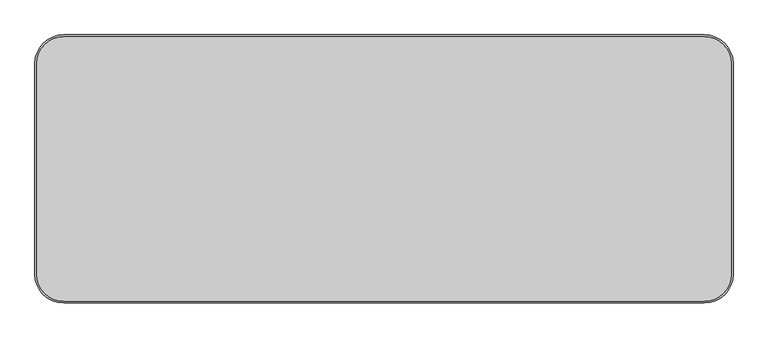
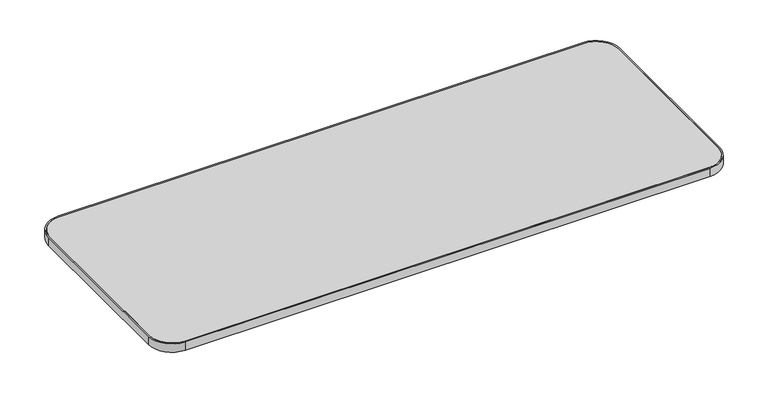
"""IFC4 building model written with IfcOpenShell, lengths in millimetres: furniture geometry, Steelcase - Answer Solution - Universal Table - Straight - 3mm Edge : 30D x 78W."""

from ifc_helpers import new_model, si_unit, point, frame, frame_2d, origin, place, context, project, spatial, polyline, circle_curve, trimmed, segment, composite_curve, outline, extrude, source, transform, mapped, element, save


def furniture_18c308d8(model_context):
    return source(origin(), model_context, "Body", "SweptSolid", [
        extrude(outline(composite_curve([segment(polyline([(5.08, -680.72), (5.08, -81.28)]), True, "CONTINUOUS"), segment(trimmed(circle_curve(frame_2d((81.28, -81.28)), 76.2), [point((5.08, -81.28))], [point((81.28, -5.08))], False, "CARTESIAN"), True, "CONTINUOUS"), segment(polyline([(81.28, -5.08), (1899.92, -5.08)]), True, "CONTINUOUS"), segment(trimmed(circle_curve(frame_2d((1899.92, -81.28)), 76.2), [point((1899.92, -5.08))], [point((1976.12, -81.28))], False, "CARTESIAN"), True, "CONTINUOUS"), segment(polyline([(1976.12, -81.28), (1976.12, -680.72)]), True, "CONTINUOUS"), segment(trimmed(circle_curve(frame_2d((1899.92, -680.72)), 76.2), [point((1976.12, -680.72))], [point((1899.92, -756.92))], False, "CARTESIAN"), True, "CONTINUOUS"), segment(polyline([(1899.92, -756.92), (81.28, -756.92)]), True, "CONTINUOUS"), segment(trimmed(circle_curve(frame_2d((81.28, -680.72)), 76.2), [point((81.28, -756.92))], [point((5.08, -680.72))], False, "CARTESIAN"), True, "CONTINUOUS")], self_intersect=False)), frame((0.0, 0.0, 668.274), z_axis=(0.0, 0.0, 1.0), x_axis=(1.0, 0.0, 0.0)), (0.0, 0.0, 1.0), 30.0990349),
        extrude(outline(composite_curve([segment(polyline([(81.28, 0.0), (1899.92, 0.0)]), True, "CONTINUOUS"), segment(trimmed(circle_curve(frame_2d((1899.92, -81.28)), 81.28), [point((1899.92, 0.0))], [point((1981.2, -81.28))], False, "CARTESIAN"), True, "CONTINUOUS"), segment(polyline([(1981.2, -81.28), (1981.2, -680.72)]), True, "CONTINUOUS"), segment(trimmed(circle_curve(frame_2d((1899.92, -680.72)), 81.28), [point((1981.2, -680.72))], [point((1899.92, -762.0))], False, "CARTESIAN"), True, "CONTINUOUS"), segment(polyline([(1899.92, -762.0), (81.28, -762.0)]), True, "CONTINUOUS"), segment(trimmed(circle_curve(frame_2d((81.28, -680.72)), 81.28), [point((81.28, -762.0))], [point((0.0, -680.72))], False, "CARTESIAN"), True, "CONTINUOUS"), segment(polyline([(0.0, -680.72), (0.0, -81.28)]), True, "CONTINUOUS"), segment(trimmed(circle_curve(frame_2d((81.28, -81.28)), 81.28), [point((0.0, -81.28))], [point((81.28, 0.0))], False, "CARTESIAN"), True, "CONTINUOUS")], self_intersect=False), holes=[composite_curve([segment(trimmed(circle_curve(frame_2d((81.28, -81.28)), 76.2), [point((81.28, -5.08))], [point((5.08, -81.28))], True, "CARTESIAN"), True, "CONTINUOUS"), segment(polyline([(5.08, -81.28), (5.08, -680.72)]), True, "CONTINUOUS"), segment(trimmed(circle_curve(frame_2d((81.28, -680.72)), 76.2), [point((5.08, -680.72))], [point((81.28, -756.92))], True, "CARTESIAN"), True, "CONTINUOUS"), segment(polyline([(81.28, -756.92), (1899.92, -756.92)]), True, "CONTINUOUS"), segment(trimmed(circle_curve(frame_2d((1899.92, -680.72)), 76.2), [point((1899.92, -756.92))], [point((1976.12, -680.72))], True, "CARTESIAN"), True, "CONTINUOUS"), segment(polyline([(1976.12, -680.72), (1976.12, -81.28)]), True, "CONTINUOUS"), segment(trimmed(circle_curve(frame_2d((1899.92, -81.28)), 76.2), [point((1976.12, -81.28))], [point((1899.92, -5.08))], True, "CARTESIAN"), True, "CONTINUOUS"), segment(polyline([(1899.92, -5.08), (81.28, -5.08)]), True, "CONTINUOUS")], self_intersect=False)]), frame((0.0, 0.0, 668.274), z_axis=(0.0, 0.0, 1.0), x_axis=(1.0, 0.0, 0.0)), (0.0, 0.0, 1.0), 30.0990349),
    ])


if __name__ == "__main__":
    model = new_model("IFC4")
    model_context = context("Model", 3, world=origin())
    ifc_project = project(units=[si_unit("LENGTHUNIT", "METRE", prefix="MILLI")], contexts=[model_context])
    site = spatial("IfcSite", under=ifc_project)
    building = spatial("IfcBuilding", under=site)
    placement = place(None, origin())
    furniture_shape = furniture_18c308d8(model_context)
    element("IfcFurniture", 1, ObjectType="Steelcase - Answer Solution - Universal Table - Straight - 3mm Edge : 30D x 78W", at=placement, inside=building, context=model_context, shape_type="MappedRepresentation", body=[
        mapped(furniture_shape, transform((0.0, 0.0, 0.0), x_axis=(1.0, 0.0, 0.0), y_axis=(0.0, 1.0, 0.0), z_axis=(0.0, 0.0, 1.0))),
    ])
    save(model, "model.ifc")
